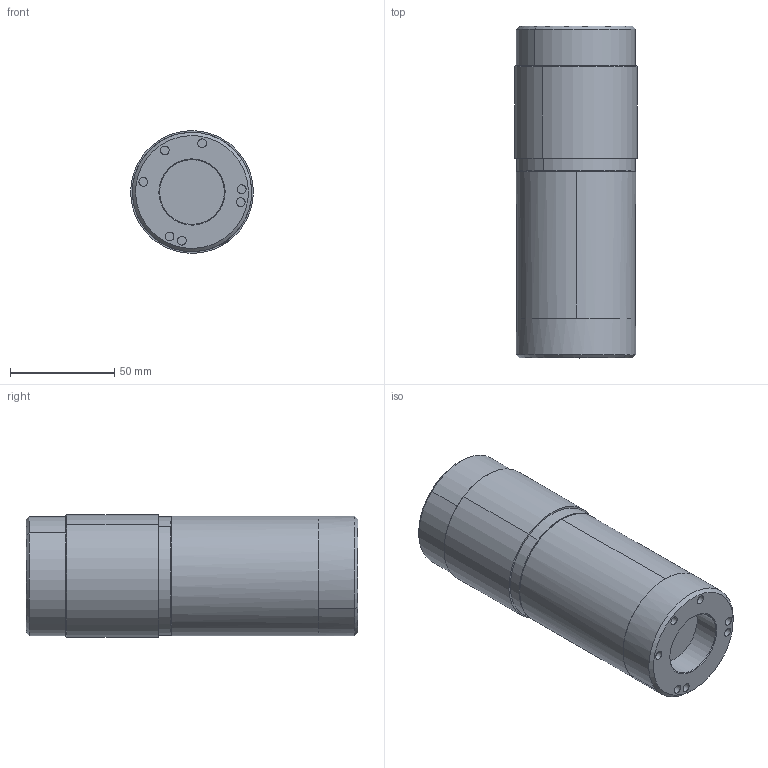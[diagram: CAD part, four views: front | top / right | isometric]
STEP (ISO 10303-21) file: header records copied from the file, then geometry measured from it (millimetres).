
FILE_DESCRIPTION (( 'STEP AP214' ), '1' );
FILE_NAME ('BEC-25-1.5-10.6.STEP', '2016-12-06T16:31:17', ( '' ), ( '' ), 'SwSTEP 2.0', 'SolidWorks 2016', '' );
FILE_SCHEMA (( 'AUTOMOTIVE_DESIGN' ));
Length unit declared in the file: inch
Products named in the file (1): BEC-25-1.5-10.6
Bounding box: 58.66 x 158.88 x 58.66 mm (x, y, z)
Volume: 390681 mm3; surface area: 43425.3 mm2
Topology: 2 solids, 2 shells, 106 faces, 215 edges, 134 vertices
Faces by surface type: cylinder 49, plane 30, cone 27
Entity records: 2981 total; most frequent: CARTESIAN_POINT 675, DIRECTION 506, ORIENTED_EDGE 430, AXIS2_PLACEMENT_3D 219, EDGE_CURVE 215, VERTEX_POINT 134, EDGE_LOOP 127, CIRCLE 112
